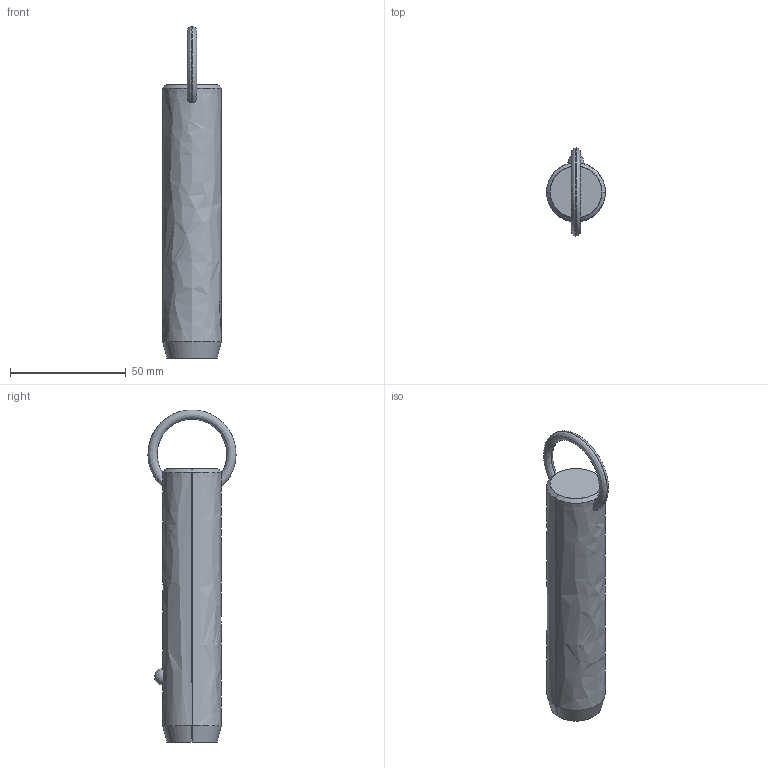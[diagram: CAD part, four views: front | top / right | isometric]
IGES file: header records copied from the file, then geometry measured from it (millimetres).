
Start section: SolidWorks IGES file using analytic representation for surfaces
Global section: file name: C:\Users\liam_\OneDrive\Documents\WORK\Work for WixRoyd\Job Files\J-00019 - Matt Davis CAD Checking\04. CAD Drawings\automotion20190605\P1250.2_v2\P1250.2_v2_20190729_IGES\P1250.100-290.igs; native system: SolidWorks 2017; preprocessor: SolidWorks 2017; author: liam_; date: 190730.173644; units: millimetre
Bounding box: 25.4 x 38.09 x 143.48 mm (x, y, z)
Surface area: 11197.3 mm2 (no closed solid volume)
Topology: 0 solids, 0 shells, 12 faces, 298 edges, 296 vertices
Faces by surface type: revolution 8, bspline 4
